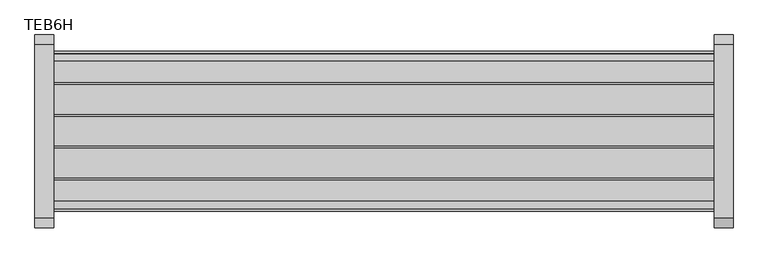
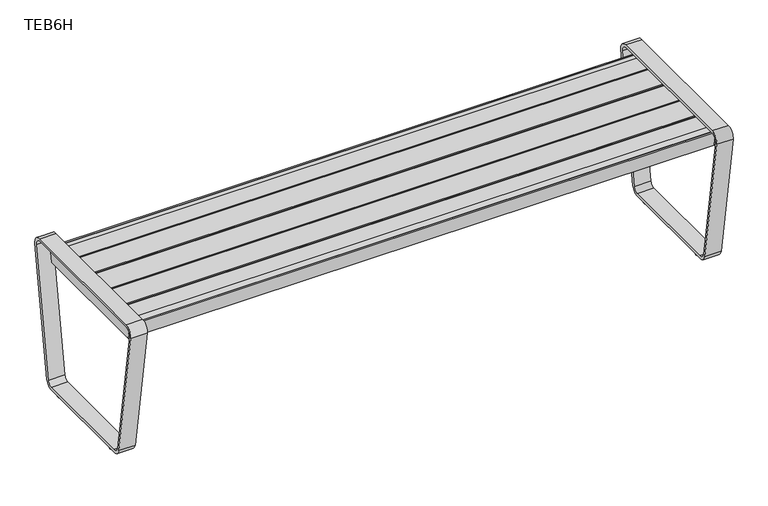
"""IFC4 building model written with IfcOpenShell, lengths in millimetres: furniture geometry, Stance_HC-Terrace-Straight_Bench_HDPE : TEB6H."""

from ifc_helpers import new_model, si_unit, point, frame, frame_2d, origin, origin_with_axes, place, context, project, spatial, polyline, circle_curve, trimmed, segment, composite_curve, outline, extrude, source, transform, mapped, element, save


def teb6h_ca488abb(model_context):
    return source(origin(), model_context, "Body", "SweptSolid", [
        extrude(outline(polyline([(1455.7375, -50.90414), (1455.7375, -467.25586), (1366.8375, -467.25586), (1366.8375, -50.90414), (1455.7375, -50.90414)])), frame((0.0, 0.0, 432.435), z_axis=(0.0, 0.0, 1.0), x_axis=(1.0, 0.0, 0.0)), (0.0, 0.0, 1.0), 3.175),
        extrude(outline(composite_curve([segment(polyline([(-467.25586, 432.435), (-50.90414, 432.435), (-57.0623598, 397.51)]), True, "CONTINUOUS"), segment(trimmed(circle_curve(frame_2d((-259.08, 1997.8972816)), 1613.0872816), [point((-57.0623598, 397.51))], [point((-461.0976402, 397.51))], False, "CARTESIAN"), True, "CONTINUOUS"), segment(polyline([(-461.0976402, 397.51), (-467.25586, 432.435)]), True, "CONTINUOUS")], self_intersect=False)), frame((1408.8999, 0.0, 0.0), z_axis=(1.0, 0.0, 0.0), x_axis=(0.0, 1.0, 0.0)), (0.0, 0.0, 1.0), 4.7752),
        extrude(outline(polyline([(1219.2, -50.90414), (1219.2, -467.25586), (1130.3, -467.25586), (1130.3, -50.90414), (1219.2, -50.90414)])), frame((0.0, 0.0, 432.435), z_axis=(0.0, 0.0, 1.0), x_axis=(1.0, 0.0, 0.0)), (0.0, 0.0, 1.0), 3.175),
        extrude(outline(composite_curve([segment(polyline([(-467.25586, 432.435), (-50.90414, 432.435), (-57.0623598, 397.51)]), True, "CONTINUOUS"), segment(trimmed(circle_curve(frame_2d((-259.08, 1997.8972816)), 1613.0872816), [point((-57.0623598, 397.51))], [point((-461.0976402, 397.51))], False, "CARTESIAN"), True, "CONTINUOUS"), segment(polyline([(-461.0976402, 397.51), (-467.25586, 432.435)]), True, "CONTINUOUS")], self_intersect=False)), frame((1172.3624, 0.0, 0.0), z_axis=(1.0, 0.0, 0.0), x_axis=(0.0, 1.0, 0.0)), (0.0, 0.0, 1.0), 4.7752),
        extrude(outline(polyline([(982.6625, -50.90414), (982.6625, -467.25586), (893.7625, -467.25586), (893.7625, -50.90414), (982.6625, -50.90414)])), frame((0.0, 0.0, 432.435), z_axis=(0.0, 0.0, 1.0), x_axis=(1.0, 0.0, 0.0)), (0.0, 0.0, 1.0), 3.175),
        extrude(outline(composite_curve([segment(polyline([(-467.25586, 432.435), (-50.90414, 432.435), (-57.0623598, 397.51)]), True, "CONTINUOUS"), segment(trimmed(circle_curve(frame_2d((-259.08, 1997.8972816)), 1613.0872816), [point((-57.0623598, 397.51))], [point((-461.0976402, 397.51))], False, "CARTESIAN"), True, "CONTINUOUS"), segment(polyline([(-461.0976402, 397.51), (-467.25586, 432.435)]), True, "CONTINUOUS")], self_intersect=False)), frame((935.8249, 0.0, 0.0), z_axis=(1.0, 0.0, 0.0), x_axis=(0.0, 1.0, 0.0)), (0.0, 0.0, 1.0), 4.7752),
        extrude(outline(polyline([(746.125, -50.90414), (746.125, -467.25586), (657.225, -467.25586), (657.225, -50.90414), (746.125, -50.90414)])), frame((0.0, 0.0, 432.435), z_axis=(0.0, 0.0, 1.0), x_axis=(1.0, 0.0, 0.0)), (0.0, 0.0, 1.0), 3.175),
        extrude(outline(composite_curve([segment(polyline([(-467.25586, 432.435), (-50.90414, 432.435), (-57.0623598, 397.51)]), True, "CONTINUOUS"), segment(trimmed(circle_curve(frame_2d((-259.08, 1997.8972816)), 1613.0872816), [point((-57.0623598, 397.51))], [point((-461.0976402, 397.51))], False, "CARTESIAN"), True, "CONTINUOUS"), segment(polyline([(-461.0976402, 397.51), (-467.25586, 432.435)]), True, "CONTINUOUS")], self_intersect=False)), frame((699.2874, 0.0, 0.0), z_axis=(1.0, 0.0, 0.0), x_axis=(0.0, 1.0, 0.0)), (0.0, 0.0, 1.0), 4.7752),
        extrude(outline(polyline([(509.5875, -50.90414), (509.5875, -467.25586), (420.6875, -467.25586), (420.6875, -50.90414), (509.5875, -50.90414)])), frame((0.0, 0.0, 432.435), z_axis=(0.0, 0.0, 1.0), x_axis=(1.0, 0.0, 0.0)), (0.0, 0.0, 1.0), 3.175),
        extrude(outline(composite_curve([segment(polyline([(-467.25586, 432.435), (-50.90414, 432.435), (-57.0623598, 397.51)]), True, "CONTINUOUS"), segment(trimmed(circle_curve(frame_2d((-259.08, 1997.8972816)), 1613.0872816), [point((-57.0623598, 397.51))], [point((-461.0976402, 397.51))], False, "CARTESIAN"), True, "CONTINUOUS"), segment(polyline([(-461.0976402, 397.51), (-467.25586, 432.435)]), True, "CONTINUOUS")], self_intersect=False)), frame((462.7499, 0.0, 0.0), z_axis=(1.0, 0.0, 0.0), x_axis=(0.0, 1.0, 0.0)), (0.0, 0.0, 1.0), 4.7752),
        extrude(outline(polyline([(1692.275, -50.90414), (1692.275, -467.25586), (1603.375, -467.25586), (1603.375, -50.90414), (1692.275, -50.90414)])), frame((0.0, 0.0, 432.435), z_axis=(0.0, 0.0, 1.0), x_axis=(1.0, 0.0, 0.0)), (0.0, 0.0, 1.0), 3.175),
        extrude(outline(composite_curve([segment(polyline([(-467.25586, 432.435), (-50.90414, 432.435), (-57.0623598, 397.51)]), True, "CONTINUOUS"), segment(trimmed(circle_curve(frame_2d((-259.08, 1997.8972816)), 1613.0872816), [point((-57.0623598, 397.51))], [point((-461.0976402, 397.51))], False, "CARTESIAN"), True, "CONTINUOUS"), segment(polyline([(-461.0976402, 397.51), (-467.25586, 432.435)]), True, "CONTINUOUS")], self_intersect=False)), frame((1645.4374, 0.0, 0.0), z_axis=(1.0, 0.0, 0.0), x_axis=(0.0, 1.0, 0.0)), (0.0, 0.0, 1.0), 4.7752),
        extrude(outline(polyline([(273.05, -50.90414), (273.05, -467.25586), (184.15, -467.25586), (184.15, -50.90414), (273.05, -50.90414)])), frame((0.0, 0.0, 432.435), z_axis=(0.0, 0.0, 1.0), x_axis=(1.0, 0.0, 0.0)), (0.0, 0.0, 1.0), 3.175),
        extrude(outline(composite_curve([segment(polyline([(-467.25586, 432.435), (-50.90414, 432.435), (-57.0623598, 397.51)]), True, "CONTINUOUS"), segment(trimmed(circle_curve(frame_2d((-259.08, 1997.8972816)), 1613.0872816), [point((-57.0623598, 397.51))], [point((-461.0976402, 397.51))], False, "CARTESIAN"), True, "CONTINUOUS"), segment(polyline([(-461.0976402, 397.51), (-467.25586, 432.435)]), True, "CONTINUOUS")], self_intersect=False)), frame((226.2124, 0.0, 0.0), z_axis=(1.0, 0.0, 0.0), x_axis=(0.0, 1.0, 0.0)), (0.0, 0.0, 1.0), 4.7752),
        extrude(outline(polyline([(-476.5675, 457.8350949), (-41.5925, 457.8350949), (-52.2294419, 397.51), (-465.9305581, 397.51), (-476.5675, 457.8350949)])), frame((1851.025, 0.0, 0.0), z_axis=(1.0, 0.0, 0.0), x_axis=(0.0, 1.0, 0.0)), (0.0, 0.0, 1.0), 6.35),
        extrude(outline(composite_curve([segment(trimmed(circle_curve(frame_2d((1854.2, -399.75536)), 22.225), [point((1876.425, -399.75536))], [point((1831.975, -399.75536))], False, "CARTESIAN"), True, "CONTINUOUS"), segment(trimmed(circle_curve(frame_2d((1854.2, -399.75536)), 22.225), [point((1831.975, -399.75536))], [point((1876.425, -399.75536))], False, "CARTESIAN"), True, "CONTINUOUS")], self_intersect=False)), origin_with_axes(), (0.0, 0.0, 1.0), 6.35),
        extrude(outline(composite_curve([segment(trimmed(circle_curve(frame_2d((1854.2, -118.40464)), 22.225), [point((1876.425, -118.40464))], [point((1831.975, -118.40464))], False, "CARTESIAN"), True, "CONTINUOUS"), segment(trimmed(circle_curve(frame_2d((1854.2, -118.40464)), 22.225), [point((1831.975, -118.40464))], [point((1876.425, -118.40464))], False, "CARTESIAN"), True, "CONTINUOUS")], self_intersect=False)), origin_with_axes(), (0.0, 0.0, 1.0), 6.35),
        extrude(outline(composite_curve([segment(trimmed(circle_curve(frame_2d((-90.0611198, 31.75)), 25.4000949), [point((-64.9737422, 27.7765497))], [point((-90.0611198, 6.3499051))], False, "CARTESIAN"), True, "CONTINUOUS"), segment(polyline([(-90.0611198, 6.3499051), (-428.0988802, 6.3499051)]), True, "CONTINUOUS"), segment(trimmed(circle_curve(frame_2d((-428.0988802, 31.75)), 25.4000949), [point((-428.0988802, 6.3499051))], [point((-453.1862578, 27.7765497))], False, "CARTESIAN"), True, "CONTINUOUS"), segment(polyline([(-453.1862578, 27.7765497), (-518.157139, 437.9865497)]), True, "CONTINUOUS"), segment(trimmed(circle_curve(frame_2d((-493.0697614, 441.96)), 25.4000949), [point((-518.157139, 437.9865497))], [point((-493.0697614, 467.3600949))], False, "CARTESIAN"), True, "CONTINUOUS"), segment(polyline([(-493.0697614, 467.3600949), (-25.0902386, 467.3600949)]), True, "CONTINUOUS"), segment(trimmed(circle_curve(frame_2d((-25.0902386, 441.96)), 25.4000949), [point((-25.0902386, 467.3600949))], [point((-0.002861, 437.9865497))], False, "CARTESIAN"), True, "CONTINUOUS"), segment(polyline([(-0.002861, 437.9865497), (-64.9737422, 27.7765497)]), True, "CONTINUOUS")], self_intersect=False), holes=[composite_curve([segment(trimmed(circle_curve(frame_2d((-493.0697614, 441.96)), 15.8750949), [point((-493.0697614, 457.8350949))], [point((-508.7494076, 439.476588))], True, "CARTESIAN"), True, "CONTINUOUS"), segment(polyline([(-508.7494076, 439.476588), (-443.7785263, 29.266588)]), True, "CONTINUOUS"), segment(trimmed(circle_curve(frame_2d((-428.0988802, 31.75)), 15.8750949), [point((-443.7785263, 29.266588))], [point((-428.0988802, 15.8749051))], True, "CARTESIAN"), True, "CONTINUOUS"), segment(polyline([(-428.0988802, 15.8749051), (-90.0611198, 15.8749051)]), True, "CONTINUOUS"), segment(trimmed(circle_curve(frame_2d((-90.0611198, 31.75)), 15.8750949), [point((-90.0611198, 15.8749051))], [point((-74.3814737, 29.266588))], True, "CARTESIAN"), True, "CONTINUOUS"), segment(polyline([(-74.3814737, 29.266588), (-9.4105924, 439.476588)]), True, "CONTINUOUS"), segment(trimmed(circle_curve(frame_2d((-25.0902386, 441.96)), 15.8750949), [point((-9.4105924, 439.476588))], [point((-25.0902386, 457.8350949))], True, "CARTESIAN"), True, "CONTINUOUS"), segment(polyline([(-25.0902386, 457.8350949), (-493.0697614, 457.8350949)]), True, "CONTINUOUS")], self_intersect=False)]), frame((1828.8, 0.0, 0.0), z_axis=(1.0, 0.0, 0.0), x_axis=(0.0, 1.0, 0.0)), (0.0, 0.0, 1.0), 50.8),
        extrude(outline(polyline([(-476.5675, 457.8350949), (-41.5925, 457.8350949), (-52.2294419, 397.51), (-465.9305581, 397.51), (-476.5675, 457.8350949)])), frame((22.225, 0.0, 0.0), z_axis=(1.0, 0.0, 0.0), x_axis=(0.0, 1.0, 0.0)), (0.0, 0.0, 1.0), 6.35),
        extrude(outline(composite_curve([segment(trimmed(circle_curve(frame_2d((25.4, -399.75536)), 22.225), [point((3.175, -399.75536))], [point((47.625, -399.75536))], False, "CARTESIAN"), True, "CONTINUOUS"), segment(trimmed(circle_curve(frame_2d((25.4, -399.75536)), 22.225), [point((47.625, -399.75536))], [point((3.175, -399.75536))], False, "CARTESIAN"), True, "CONTINUOUS")], self_intersect=False)), origin_with_axes(), (0.0, 0.0, 1.0), 6.35),
        extrude(outline(composite_curve([segment(trimmed(circle_curve(frame_2d((25.4, -118.40464)), 22.225), [point((3.175, -118.40464))], [point((47.625, -118.40464))], False, "CARTESIAN"), True, "CONTINUOUS"), segment(trimmed(circle_curve(frame_2d((25.4, -118.40464)), 22.225), [point((47.625, -118.40464))], [point((3.175, -118.40464))], False, "CARTESIAN"), True, "CONTINUOUS")], self_intersect=False)), origin_with_axes(), (0.0, 0.0, 1.0), 6.35),
        extrude(outline(composite_curve([segment(polyline([(-493.0697614, 467.3600949), (-25.0902386, 467.3600949)]), True, "CONTINUOUS"), segment(trimmed(circle_curve(frame_2d((-25.0902386, 441.96)), 25.4000949), [point((-25.0902386, 467.3600949))], [point((-0.002861, 437.9865497))], False, "CARTESIAN"), True, "CONTINUOUS"), segment(polyline([(-0.002861, 437.9865497), (-64.9737422, 27.7765497)]), True, "CONTINUOUS"), segment(trimmed(circle_curve(frame_2d((-90.0611198, 31.75)), 25.4000949), [point((-64.9737422, 27.7765497))], [point((-90.0611198, 6.3499051))], False, "CARTESIAN"), True, "CONTINUOUS"), segment(polyline([(-90.0611198, 6.3499051), (-428.0988802, 6.3499051)]), True, "CONTINUOUS"), segment(trimmed(circle_curve(frame_2d((-428.0988802, 31.75)), 25.4000949), [point((-428.0988802, 6.3499051))], [point((-453.1862578, 27.7765497))], False, "CARTESIAN"), True, "CONTINUOUS"), segment(polyline([(-453.1862578, 27.7765497), (-518.157139, 437.9865497)]), True, "CONTINUOUS"), segment(trimmed(circle_curve(frame_2d((-493.0697614, 441.96)), 25.4000949), [point((-518.157139, 437.9865497))], [point((-493.0697614, 467.3600949))], False, "CARTESIAN"), True, "CONTINUOUS")], self_intersect=False), holes=[composite_curve([segment(polyline([(-74.3814737, 29.266588), (-9.4105924, 439.476588)]), True, "CONTINUOUS"), segment(trimmed(circle_curve(frame_2d((-25.0902386, 441.96)), 15.8750949), [point((-9.4105924, 439.476588))], [point((-25.0902386, 457.8350949))], True, "CARTESIAN"), True, "CONTINUOUS"), segment(polyline([(-25.0902386, 457.8350949), (-493.0697614, 457.8350949)]), True, "CONTINUOUS"), segment(trimmed(circle_curve(frame_2d((-493.0697614, 441.96)), 15.8750949), [point((-493.0697614, 457.8350949))], [point((-508.7494076, 439.476588))], True, "CARTESIAN"), True, "CONTINUOUS"), segment(polyline([(-508.7494076, 439.476588), (-443.7785263, 29.266588)]), True, "CONTINUOUS"), segment(trimmed(circle_curve(frame_2d((-428.0988802, 31.75)), 15.8750949), [point((-443.7785263, 29.266588))], [point((-428.0988802, 15.8749051))], True, "CARTESIAN"), True, "CONTINUOUS"), segment(polyline([(-428.0988802, 15.8749051), (-90.0611198, 15.8749051)]), True, "CONTINUOUS"), segment(trimmed(circle_curve(frame_2d((-90.0611198, 31.75)), 15.8750949), [point((-90.0611198, 15.8749051))], [point((-74.3814737, 29.266588))], True, "CARTESIAN"), True, "CONTINUOUS")], self_intersect=False)]), frame((0.0, 0.0, 0.0), z_axis=(1.0, 0.0, 0.0), x_axis=(0.0, 1.0, 0.0)), (0.0, 0.0, 1.0), 50.8),
        extrude(outline(polyline([(-57.0610609, 397.510164), (-461.0989391, 397.510164), (-467.2574614, 432.4368793), (-50.9025386, 432.4368793), (-57.0610609, 397.510164)])), frame((1846.2625, 0.0, 0.0), z_axis=(1.0, 0.0, 0.0), x_axis=(0.0, 1.0, 0.0)), (0.0, 0.0, 1.0), 4.7625),
        extrude(outline(polyline([(-57.0610609, 397.510164), (-461.0989391, 397.510164), (-467.2574614, 432.4368793), (-50.9025386, 432.4368793), (-57.0610609, 397.510164)])), frame((28.575, 0.0, 0.0), z_axis=(1.0, 0.0, 0.0), x_axis=(0.0, 1.0, 0.0)), (0.0, 0.0, 1.0), 4.7625),
        extrude(outline(polyline([(0.0, -4.7625), (0.0, 0.0), (1822.45, 0.0), (1822.45, -4.7625), (0.0, -4.7625)])), frame((1851.025, -57.0623598, 397.51), z_axis=(0.0, 0.17364817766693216, 0.9848077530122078), x_axis=(-1.0, 0.0, 0.0)), (0.0, 0.0, 1.0), 48.35906),
        extrude(outline(polyline([(0.0, -4.7625), (0.0, 0.0), (1822.45, 0.0), (1822.45, -4.7625), (0.0, -4.7625)])), frame((1851.025, -465.7877871, 396.6830006), z_axis=(0.0, -0.17364817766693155, 0.9848077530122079), x_axis=(-1.0, 0.0, 0.0)), (0.0, 0.0, 1.0), 48.35906),
        extrude(outline(polyline([(-51.1175, 445.2927764), (-52.8248347, 435.61), (-465.3351653, 435.61), (-467.0425, 445.2927764), (-447.9925, 448.31), (-390.8425, 448.31), (-390.8425, 445.135), (-384.4925, 445.135), (-384.4925, 448.31), (-305.1175, 448.31), (-305.1175, 445.135), (-298.7675, 445.135), (-298.7675, 448.31), (-219.3925, 448.31), (-219.3925, 445.135), (-213.0425, 445.135), (-213.0425, 448.31), (-133.6675, 448.31), (-133.6675, 445.135), (-127.3175, 445.135), (-127.3175, 448.31), (-70.1675, 448.31), (-51.1175, 445.2927764)])), frame((31.75, 0.0, 0.0), z_axis=(1.0, 0.0, 0.0), x_axis=(0.0, 1.0, 0.0)), (0.0, 0.0, 1.0), 1819.275),
    ])


if __name__ == "__main__":
    model = new_model("IFC4")
    model_context = context("Model", 3, world=origin())
    ifc_project = project(units=[si_unit("LENGTHUNIT", "METRE", prefix="MILLI")], contexts=[model_context])
    site = spatial("IfcSite", under=ifc_project)
    building = spatial("IfcBuilding", under=site)
    placement = place(None, origin())
    teb6h_shape = teb6h_ca488abb(model_context)
    element("IfcFurniture", 1, ObjectType="Stance_HC-Terrace-Straight_Bench_HDPE : TEB6H", at=placement, inside=building, context=model_context, shape_type="MappedRepresentation", body=[
        mapped(teb6h_shape, transform((0.0, 0.0, 0.0), x_axis=(1.0, 0.0, 0.0), y_axis=(0.0, 1.0, 0.0), z_axis=(0.0, 0.0, 1.0))),
    ])
    save(model, "model.ifc")
